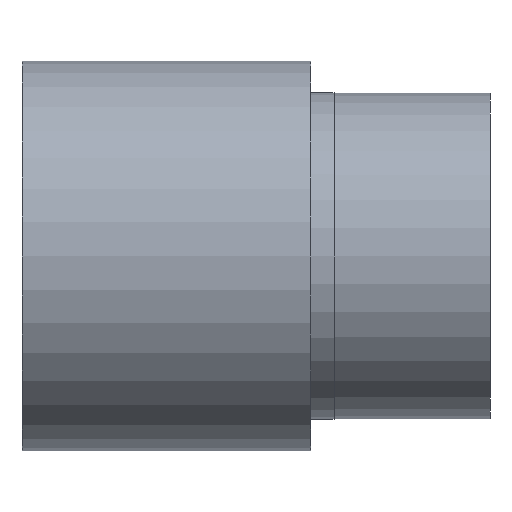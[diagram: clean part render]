
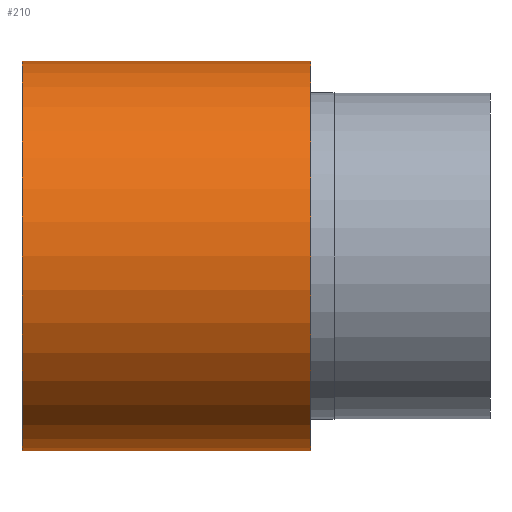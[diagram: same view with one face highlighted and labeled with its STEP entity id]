
A CAD part, front view. The second image highlights one B-rep face of the part: STEP entity #210.
In plain terms, the highlighted cylindrical face has radius 25 mm (diameter 50 mm), a full revolution.
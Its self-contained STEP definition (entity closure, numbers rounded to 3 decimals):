
#19=CYLINDRICAL_SURFACE($,#242,25.);
#34=FACE_BOUND($,#77,.T.);
#51=FACE_OUTER_BOUND($,#76,.T.);
#76=EDGE_LOOP($,(#161));
#77=EDGE_LOOP($,(#162));
#101=CIRCLE($,#241,25.);
#102=CIRCLE($,#243,25.);
#118=VERTEX_POINT($,#357);
#119=VERTEX_POINT($,#360);
#135=EDGE_CURVE($,#118,#118,#101,.T.);
#136=EDGE_CURVE($,#119,#119,#102,.T.);
#161=ORIENTED_EDGE($,*,*,#136,.F.);
#162=ORIENTED_EDGE($,*,*,#135,.T.);
#210=ADVANCED_FACE($,(#51,#34),#19,.T.);
#241=AXIS2_PLACEMENT_3D($,#358,#298,#299);
#242=AXIS2_PLACEMENT_3D($,#359,#300,#301);
#243=AXIS2_PLACEMENT_3D($,#361,#302,#303);
#298=DIRECTION('center_axis',(1.,0.,0.));
#299=DIRECTION('ref_axis',(0.,1.,0.));
#300=DIRECTION('center_axis',(1.,0.,0.));
#301=DIRECTION('ref_axis',(0.,1.,0.));
#302=DIRECTION('center_axis',(1.,0.,0.));
#303=DIRECTION('ref_axis',(0.,1.,0.));
#357=CARTESIAN_POINT('',(0.,25.,0.));
#358=CARTESIAN_POINT('Origin',(0.,0.,0.));
#359=CARTESIAN_POINT('Origin',(18.5,0.,0.));
#360=CARTESIAN_POINT('',(37.,25.,0.));
#361=CARTESIAN_POINT('Origin',(37.,0.,0.));
